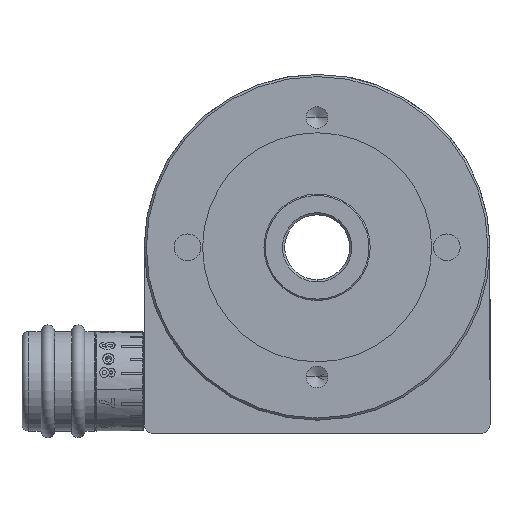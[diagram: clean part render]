
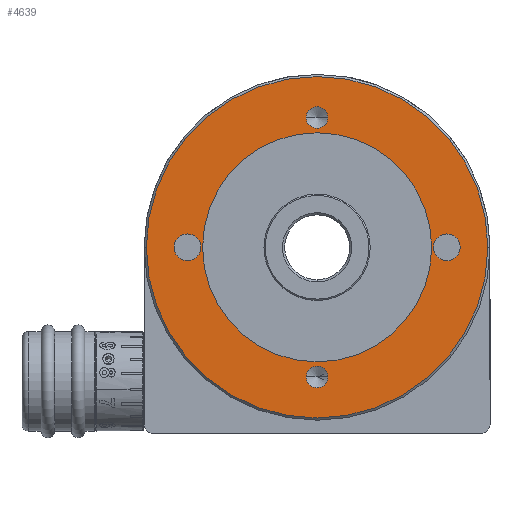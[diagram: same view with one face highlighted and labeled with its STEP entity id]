
A CAD part, front view. The second image highlights one B-rep face of the part: STEP entity #4639.
In plain terms, the highlighted planar face has unit normal (0, -1, 0).
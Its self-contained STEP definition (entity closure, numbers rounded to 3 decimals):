
#139 = ORIENTED_EDGE ( 'NONE', *, *, #22344, .F. ) ;
#392 = DIRECTION ( 'NONE',  ( 0., -1., 0. ) ) ;
#678 = DIRECTION ( 'NONE',  ( 0., -1., 0. ) ) ;
#1134 = DIRECTION ( 'NONE',  ( 0., 1., 0. ) ) ;
#1593 = ORIENTED_EDGE ( 'NONE', *, *, #33074, .T. ) ;
#1633 = CARTESIAN_POINT ( 'NONE',  ( 33.1, 0., 0. ) ) ;
#1867 = VERTEX_POINT ( 'NONE', #37419 ) ;
#2431 = ORIENTED_EDGE ( 'NONE', *, *, #38787, .F. ) ;
#3177 = CARTESIAN_POINT ( 'NONE',  ( 39.5, 0., 0. ) ) ;
#3267 = ORIENTED_EDGE ( 'NONE', *, *, #11742, .T. ) ;
#4219 = AXIS2_PLACEMENT_3D ( 'NONE', #38216, #11795, #42675 ) ;
#4513 = DIRECTION ( 'NONE',  ( 0., 1., 0. ) ) ;
#4639 = ADVANCED_FACE ( 'NONE', ( #54210, #30747, #20333, #18923, #7214, #52851 ), #20149, .F. ) ;
#5231 = CARTESIAN_POINT ( 'NONE',  ( 30., 0., 0. ) ) ;
#5589 = CIRCLE ( 'NONE', #16728, 2.5 ) ;
#6345 = VERTEX_POINT ( 'NONE', #21993 ) ;
#6955 = ORIENTED_EDGE ( 'NONE', *, *, #17368, .T. ) ;
#7214 = FACE_BOUND ( 'NONE', #39943, .T. ) ;
#8282 = DIRECTION ( 'NONE',  ( 0., -1., 0. ) ) ;
#8718 = CARTESIAN_POINT ( 'NONE',  ( -26.9, 0., 0. ) ) ;
#9682 = DIRECTION ( 'NONE',  ( 1., 0., 0. ) ) ;
#9961 = VERTEX_POINT ( 'NONE', #38063 ) ;
#10910 = AXIS2_PLACEMENT_3D ( 'NONE', #37653, #11231, #42119 ) ;
#11231 = DIRECTION ( 'NONE',  ( 0., -1., 0. ) ) ;
#11466 = DIRECTION ( 'NONE',  ( 0., 1., 0. ) ) ;
#11632 = CIRCLE ( 'NONE', #54966, 2.5 ) ;
#11660 = CARTESIAN_POINT ( 'NONE',  ( 0., 0., 30. ) ) ;
#11742 = EDGE_CURVE ( 'NONE', #25156, #13647, #54914, .T. ) ;
#11795 = DIRECTION ( 'NONE',  ( 0., -1., 0. ) ) ;
#12107 = CARTESIAN_POINT ( 'NONE',  ( -39.5, 0., 0. ) ) ;
#12915 = EDGE_CURVE ( 'NONE', #13647, #25156, #37541, .T. ) ;
#12997 = CARTESIAN_POINT ( 'NONE',  ( -2.5, 0., 30. ) ) ;
#13434 = VERTEX_POINT ( 'NONE', #36041 ) ;
#13435 = CARTESIAN_POINT ( 'NONE',  ( 0., 0., 0. ) ) ;
#13647 = VERTEX_POINT ( 'NONE', #12107 ) ;
#14356 = CIRCLE ( 'NONE', #4219, 26.5 ) ;
#15124 = CIRCLE ( 'NONE', #15605, 2.5 ) ;
#15263 = AXIS2_PLACEMENT_3D ( 'NONE', #27601, #1134, #32022 ) ;
#15605 = AXIS2_PLACEMENT_3D ( 'NONE', #26852, #392, #31305 ) ;
#16103 = DIRECTION ( 'NONE',  ( -1., 0., 0. ) ) ;
#16393 = ORIENTED_EDGE ( 'NONE', *, *, #53373, .F. ) ;
#16728 = AXIS2_PLACEMENT_3D ( 'NONE', #11660, #42535, #16103 ) ;
#17368 = EDGE_CURVE ( 'NONE', #27437, #9961, #42974, .T. ) ;
#17866 = DIRECTION ( 'NONE',  ( -1., 0., 0. ) ) ;
#18126 = CIRCLE ( 'NONE', #51870, 3.1 ) ;
#18695 = VERTEX_POINT ( 'NONE', #8718 ) ;
#18923 = FACE_BOUND ( 'NONE', #51581, .T. ) ;
#20149 = PLANE ( 'NONE',  #44994 ) ;
#20333 = FACE_BOUND ( 'NONE', #55201, .T. ) ;
#20695 = EDGE_CURVE ( 'NONE', #26251, #6345, #15124, .T. ) ;
#20831 = CIRCLE ( 'NONE', #53042, 26.5 ) ;
#21186 = AXIS2_PLACEMENT_3D ( 'NONE', #27129, #678, #31575 ) ;
#21204 = AXIS2_PLACEMENT_3D ( 'NONE', #52198, #25722, #56658 ) ;
#21528 = DIRECTION ( 'NONE',  ( 0., 1., 0. ) ) ;
#21993 = CARTESIAN_POINT ( 'NONE',  ( 2.5, 0., 30. ) ) ;
#22124 = EDGE_LOOP ( 'NONE', ( #3267, #39711 ) ) ;
#22133 = EDGE_LOOP ( 'NONE', ( #1593, #26655 ) ) ;
#22344 = EDGE_CURVE ( 'NONE', #1867, #52646, #14356, .T. ) ;
#24188 = VERTEX_POINT ( 'NONE', #41690 ) ;
#25156 = VERTEX_POINT ( 'NONE', #3177 ) ;
#25483 = ORIENTED_EDGE ( 'NONE', *, *, #56355, .F. ) ;
#25619 = CIRCLE ( 'NONE', #21186, 2.5 ) ;
#25722 = DIRECTION ( 'NONE',  ( 0., -1., 0. ) ) ;
#26251 = VERTEX_POINT ( 'NONE', #12997 ) ;
#26655 = ORIENTED_EDGE ( 'NONE', *, *, #50390, .T. ) ;
#26852 = CARTESIAN_POINT ( 'NONE',  ( 0., 0., 30. ) ) ;
#27129 = CARTESIAN_POINT ( 'NONE',  ( 0., 0., -30. ) ) ;
#27437 = VERTEX_POINT ( 'NONE', #1633 ) ;
#27601 = CARTESIAN_POINT ( 'NONE',  ( 30., 0., 0. ) ) ;
#28437 = AXIS2_PLACEMENT_3D ( 'NONE', #5231, #36100, #9682 ) ;
#30747 = FACE_OUTER_BOUND ( 'NONE', #22124, .T. ) ;
#31015 = CARTESIAN_POINT ( 'NONE',  ( -30., 0., 0. ) ) ;
#31305 = DIRECTION ( 'NONE',  ( -1., 0., 0. ) ) ;
#31575 = DIRECTION ( 'NONE',  ( -1., 0., 0. ) ) ;
#32022 = DIRECTION ( 'NONE',  ( 1., 0., 0. ) ) ;
#33074 = EDGE_CURVE ( 'NONE', #18695, #46198, #48557, .T. ) ;
#34730 = CARTESIAN_POINT ( 'NONE',  ( 0., 0., -30. ) ) ;
#35402 = DIRECTION ( 'NONE',  ( 1., 0., 0. ) ) ;
#36041 = CARTESIAN_POINT ( 'NONE',  ( -2.5, 0., -30. ) ) ;
#36100 = DIRECTION ( 'NONE',  ( 0., 1., 0. ) ) ;
#37419 = CARTESIAN_POINT ( 'NONE',  ( 26.5, 0., 0. ) ) ;
#37541 = CIRCLE ( 'NONE', #10910, 39.5 ) ;
#37653 = CARTESIAN_POINT ( 'NONE',  ( 0., 0., 0. ) ) ;
#37913 = CARTESIAN_POINT ( 'NONE',  ( 0., 0., 0. ) ) ;
#38063 = CARTESIAN_POINT ( 'NONE',  ( 26.9, 0., 0. ) ) ;
#38216 = CARTESIAN_POINT ( 'NONE',  ( 0., 0., 0. ) ) ;
#38337 = AXIS2_PLACEMENT_3D ( 'NONE', #47997, #21528, #52504 ) ;
#38787 = EDGE_CURVE ( 'NONE', #6345, #26251, #5589, .T. ) ;
#39144 = DIRECTION ( 'NONE',  ( -1., 0., 0. ) ) ;
#39610 = EDGE_CURVE ( 'NONE', #52646, #1867, #20831, .T. ) ;
#39711 = ORIENTED_EDGE ( 'NONE', *, *, #12915, .T. ) ;
#39943 = EDGE_LOOP ( 'NONE', ( #6955, #50659 ) ) ;
#40197 = EDGE_CURVE ( 'NONE', #9961, #27437, #46384, .T. ) ;
#41690 = CARTESIAN_POINT ( 'NONE',  ( 2.5, 0., -30. ) ) ;
#42119 = DIRECTION ( 'NONE',  ( 1., 0., 0. ) ) ;
#42349 = DIRECTION ( 'NONE',  ( 1., 0., 0. ) ) ;
#42535 = DIRECTION ( 'NONE',  ( 0., -1., 0. ) ) ;
#42675 = DIRECTION ( 'NONE',  ( -1., 0., 0. ) ) ;
#42974 = CIRCLE ( 'NONE', #28437, 3.1 ) ;
#44104 = ORIENTED_EDGE ( 'NONE', *, *, #39610, .F. ) ;
#44322 = DIRECTION ( 'NONE',  ( 0., -1., 0. ) ) ;
#44994 = AXIS2_PLACEMENT_3D ( 'NONE', #37913, #11466, #42349 ) ;
#46168 = EDGE_LOOP ( 'NONE', ( #44104, #139 ) ) ;
#46198 = VERTEX_POINT ( 'NONE', #48163 ) ;
#46384 = CIRCLE ( 'NONE', #15263, 3.1 ) ;
#47997 = CARTESIAN_POINT ( 'NONE',  ( -30., 0., 0. ) ) ;
#48163 = CARTESIAN_POINT ( 'NONE',  ( -33.1, 0., 0. ) ) ;
#48557 = CIRCLE ( 'NONE', #38337, 3.1 ) ;
#49624 = ORIENTED_EDGE ( 'NONE', *, *, #20695, .F. ) ;
#50390 = EDGE_CURVE ( 'NONE', #46198, #18695, #18126, .T. ) ;
#50659 = ORIENTED_EDGE ( 'NONE', *, *, #40197, .T. ) ;
#51581 = EDGE_LOOP ( 'NONE', ( #16393, #25483 ) ) ;
#51870 = AXIS2_PLACEMENT_3D ( 'NONE', #31015, #4513, #35402 ) ;
#52198 = CARTESIAN_POINT ( 'NONE',  ( 0., 0., 0. ) ) ;
#52504 = DIRECTION ( 'NONE',  ( 1., 0., 0. ) ) ;
#52646 = VERTEX_POINT ( 'NONE', #53319 ) ;
#52851 = FACE_BOUND ( 'NONE', #22133, .T. ) ;
#53042 = AXIS2_PLACEMENT_3D ( 'NONE', #13435, #44322, #17866 ) ;
#53319 = CARTESIAN_POINT ( 'NONE',  ( -26.5, 0., 0. ) ) ;
#53373 = EDGE_CURVE ( 'NONE', #13434, #24188, #25619, .T. ) ;
#54210 = FACE_BOUND ( 'NONE', #46168, .T. ) ;
#54914 = CIRCLE ( 'NONE', #21204, 39.5 ) ;
#54966 = AXIS2_PLACEMENT_3D ( 'NONE', #34730, #8282, #39144 ) ;
#55201 = EDGE_LOOP ( 'NONE', ( #49624, #2431 ) ) ;
#56355 = EDGE_CURVE ( 'NONE', #24188, #13434, #11632, .T. ) ;
#56658 = DIRECTION ( 'NONE',  ( 1., 0., 0. ) ) ;
